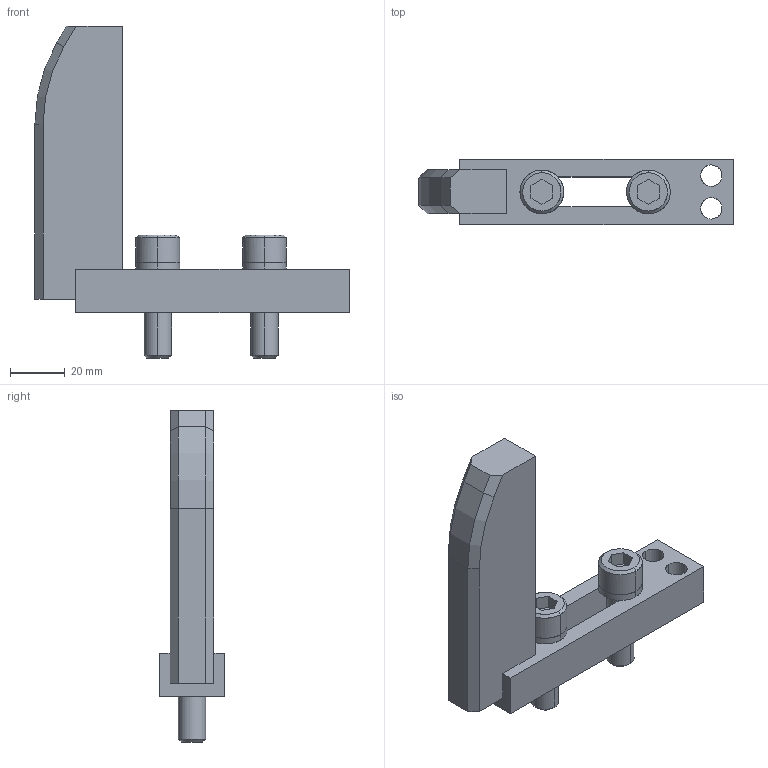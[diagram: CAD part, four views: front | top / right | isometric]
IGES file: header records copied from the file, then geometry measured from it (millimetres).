
Global section: file name: E:\UnigraphicsGraphicData\MISUMI_PRESS-PARTS\IGES\3d_ensta-105-20-m10_01413_r00.igs; native system: NX V5.0; preprocessor: UGS NX IGES V5.0; author: MISUMI; date: 20110105.160619; units: millimetre
Bounding box: 115 x 24 x 121.5 mm (x, y, z)
Surface area: 23744 mm2 (no closed solid volume)
Topology: 0 solids, 0 shells, 76 faces, 481 edges, 481 vertices
Faces by surface type: bspline 76
